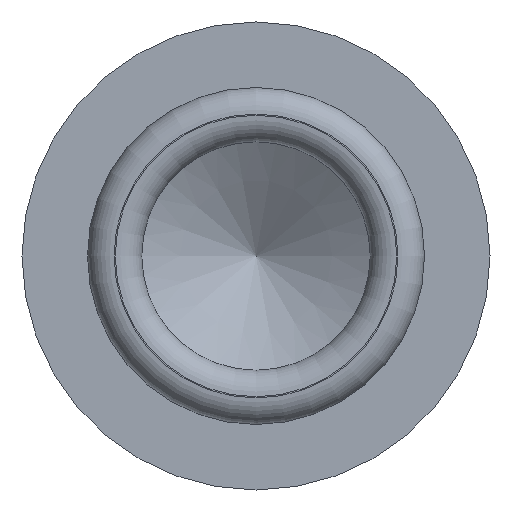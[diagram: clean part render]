
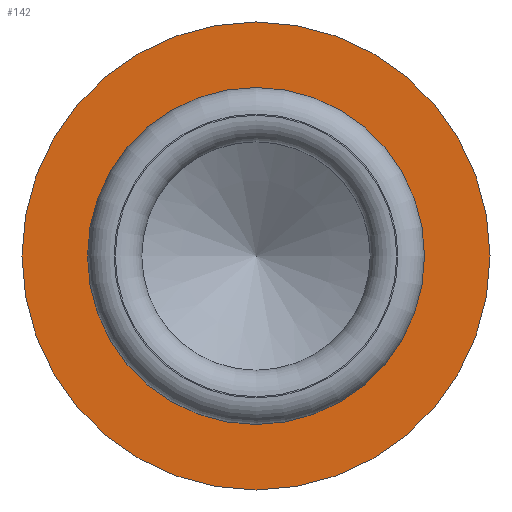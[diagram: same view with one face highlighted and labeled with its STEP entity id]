
A CAD part, left-side view. The second image highlights one B-rep face of the part: STEP entity #142.
In plain terms, the highlighted planar face has unit normal (-1, 0, 0).
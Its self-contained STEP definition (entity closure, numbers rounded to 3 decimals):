
#21=PLANE($,#166);
#30=FACE_BOUND($,#63,.T.);
#45=FACE_OUTER_BOUND($,#62,.T.);
#62=EDGE_LOOP($,(#122));
#63=EDGE_LOOP($,(#123));
#77=CIRCLE($,#160,1.143);
#80=CIRCLE($,#167,1.588);
#89=VERTEX_POINT($,#243);
#92=VERTEX_POINT($,#253);
#101=EDGE_CURVE($,#89,#89,#77,.T.);
#104=EDGE_CURVE($,#92,#92,#80,.T.);
#122=ORIENTED_EDGE($,*,*,#104,.F.);
#123=ORIENTED_EDGE($,*,*,#101,.T.);
#142=ADVANCED_FACE($,(#45,#30),#21,.T.);
#160=AXIS2_PLACEMENT_3D($,#244,#197,#198);
#166=AXIS2_PLACEMENT_3D($,#252,#209,#210);
#167=AXIS2_PLACEMENT_3D($,#254,#211,#212);
#197=DIRECTION('center_axis',(1.,0.,0.));
#198=DIRECTION('ref_axis',(0.,1.,0.));
#209=DIRECTION('center_axis',(-1.,0.,0.));
#210=DIRECTION('ref_axis',(0.,0.,1.));
#211=DIRECTION('center_axis',(1.,0.,0.));
#212=DIRECTION('ref_axis',(0.,1.,0.));
#243=CARTESIAN_POINT('',(4.267,1.143,0.));
#244=CARTESIAN_POINT('Origin',(4.267,0.,0.));
#252=CARTESIAN_POINT('Origin',(4.267,1.365,0.));
#253=CARTESIAN_POINT('',(4.267,1.588,0.));
#254=CARTESIAN_POINT('Origin',(4.267,0.,0.));
